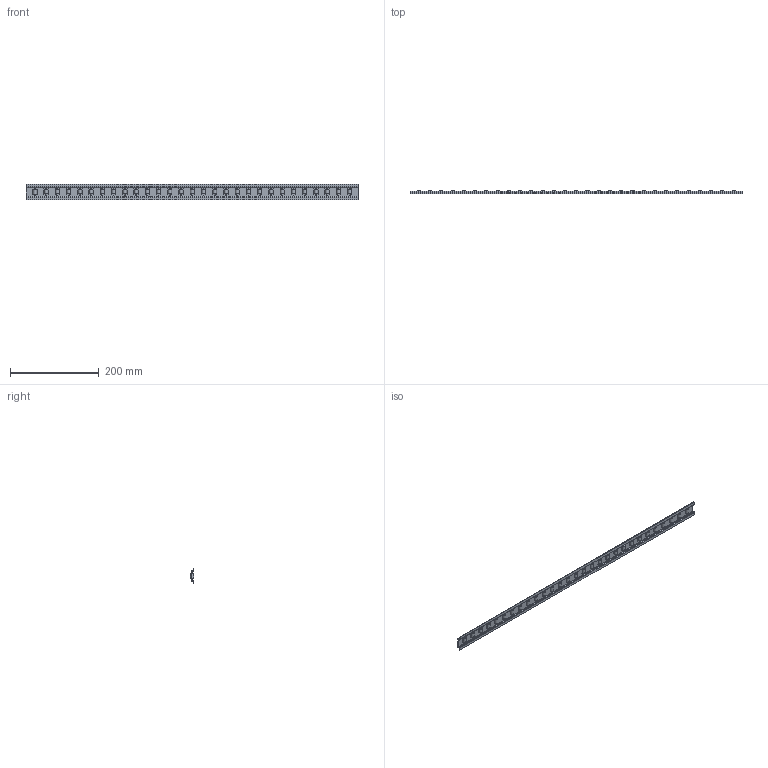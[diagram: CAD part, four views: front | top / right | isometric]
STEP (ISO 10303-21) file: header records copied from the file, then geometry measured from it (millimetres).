
FILE_DESCRIPTION(('CATIA V5 STEP Exchange'),'2;1');
FILE_NAME('C:\Users\Raffaele\Desktop\3D X SITO CF\88 SCRUL\GSB_OILLESS_M3100335750\88 SCRUL.stp','2019-07-05T09:43:48+00:00',('none'),('none'),'CATIA Version 5 Release 20 GA (IN-10)','CATIA V5 STEP AP203','none');
FILE_SCHEMA(('CONFIG_CONTROL_DESIGN'));
Length unit declared in the file: millimetre
Products named in the file (1): 88 SCRUL
Bounding box: 750 x 8.5 x 35 mm (x, y, z)
Volume: 61442.5 mm3; surface area: 71916.5 mm2
Topology: 1 solids, 1 shells, 428 faces, 1278 edges, 852 vertices
Faces by surface type: cylinder 240, plane 188
Entity records: 16008 total; most frequent: CARTESIAN_POINT 4673, ORIENTED_EDGE 2556, DIRECTION 1903, EDGE_CURVE 1278, VERTEX_POINT 852, AXIS2_PLACEMENT_3D 794, VECTOR 682, LINE 682
